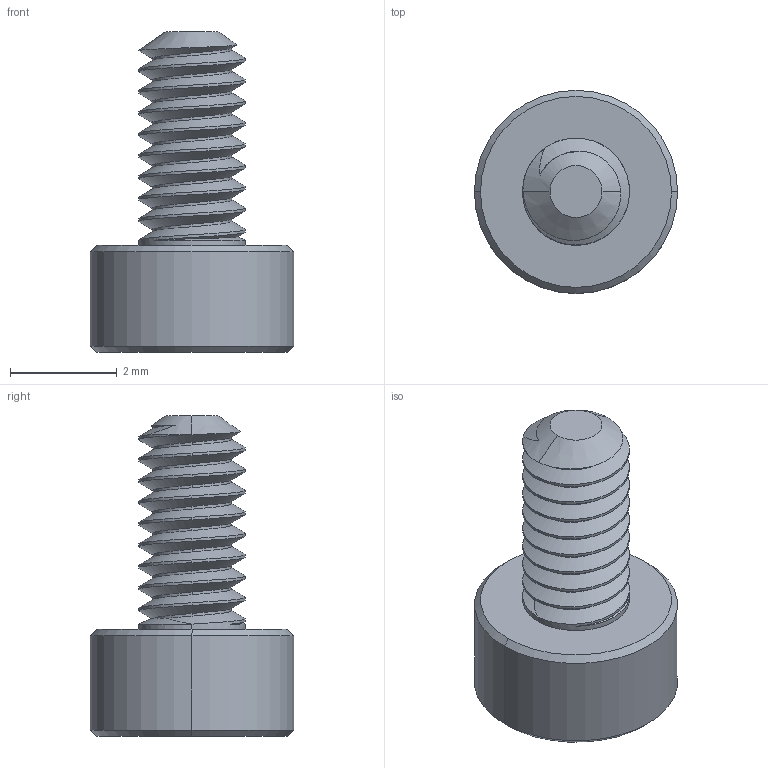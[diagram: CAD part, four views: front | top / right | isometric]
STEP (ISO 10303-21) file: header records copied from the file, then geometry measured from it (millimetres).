
FILE_DESCRIPTION (( 'STEP AP203' ), '1' );
FILE_NAME ('91290A011.step', '2014-01-16T20:39:51', ( '' ), ( '' ), 'SwSTEP 2.0', 'SolidWorks 2013', '' );
FILE_SCHEMA (( 'CONFIG_CONTROL_DESIGN' ));
Length unit declared in the file: millimetre
Products named in the file (1): 91290A011
Bounding box: 3.8 x 3.8 x 6 mm (x, y, z)
Volume: 29.8 mm3; surface area: 85.9 mm2
Topology: 1 solids, 1 shells, 68 faces, 175 edges, 111 vertices
Faces by surface type: cylinder 40, cone 16, plane 10, bspline 2
Entity records: 3149 total; most frequent: CARTESIAN_POINT 1658, ORIENTED_EDGE 350, DIRECTION 246, EDGE_CURVE 175, VERTEX_POINT 111, AXIS2_PLACEMENT_3D 93, EDGE_LOOP 70, FACE_OUTER_BOUND 68
